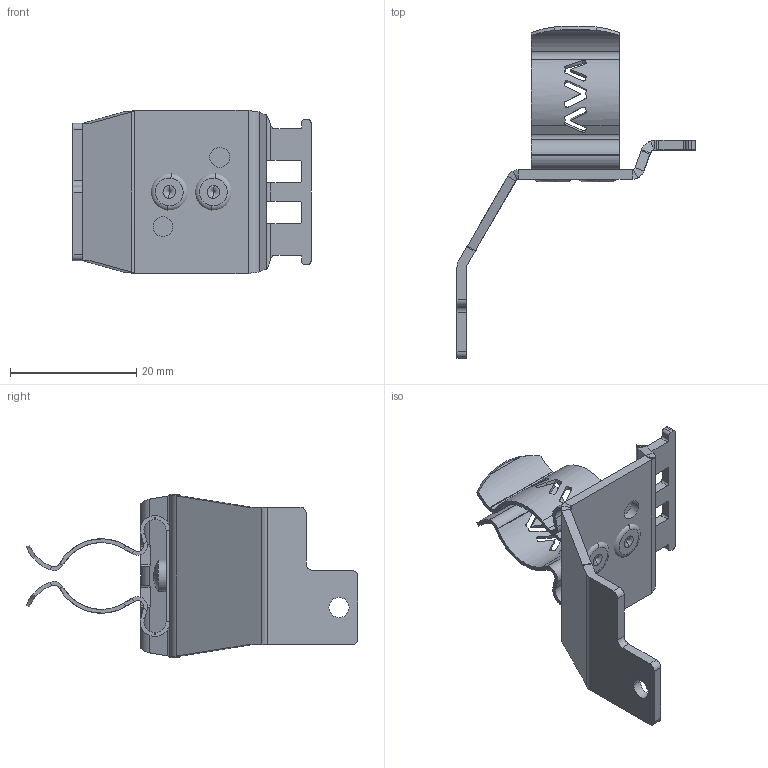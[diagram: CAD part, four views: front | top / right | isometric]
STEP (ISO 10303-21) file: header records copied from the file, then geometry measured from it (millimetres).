
FILE_DESCRIPTION (( 'STEP AP214' ), '1' );
FILE_NAME ('1050-070.STEP', '2021-08-13T07:40:35', ( '' ), ( '' ), 'SwSTEP 2.0', 'SolidWorks 2020', '' );
FILE_SCHEMA (( 'AUTOMOTIVE_DESIGN' ));
Length unit declared in the file: millimetre
Products named in the file (4): 1014-005; 3x1,5_2mm Blechst„rke; 1050-070; 1051-170
Assembly tree (4 placements, depth 2):
  1050-070
    1051-170
    1014-005
    3x1,5_2mm Blechst„rke  x2
Bounding box: 37.76 x 52.65 x 26 mm (x, y, z)
Volume: 2708.8 mm3; surface area: 5493.4 mm2
Topology: 4 solids, 4 shells, 372 faces, 963 edges, 596 vertices
Faces by surface type: plane 151, bspline 117, cylinder 92, torus 8, sphere 4
Entity records: 13021 total; most frequent: CARTESIAN_POINT 4787, ORIENTED_EDGE 1866, DIRECTION 1287, EDGE_CURVE 933, VERTEX_POINT 578, AXIS2_PLACEMENT_3D 435, LINE 417, VECTOR 417
